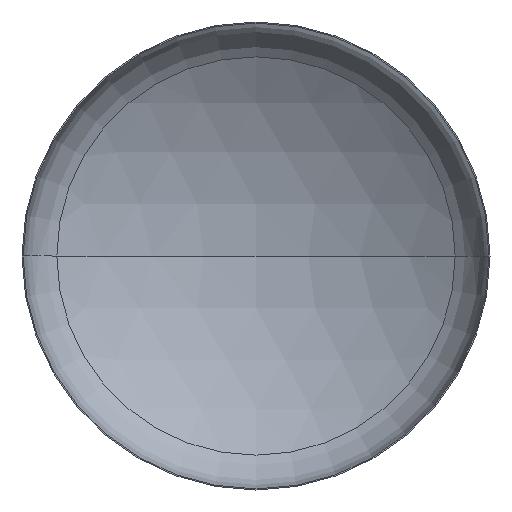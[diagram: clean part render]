
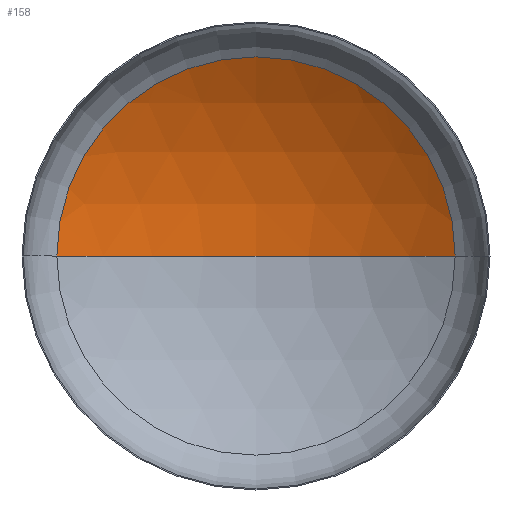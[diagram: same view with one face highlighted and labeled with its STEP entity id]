
A CAD part, front view. The second image highlights one B-rep face of the part: STEP entity #158.
In plain terms, the highlighted spherical face has radius 3040 mm.
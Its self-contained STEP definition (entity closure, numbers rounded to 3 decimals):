
#9 = EDGE_LOOP ( 'NONE', ( #122, #164, #116 ) ) ;
#14 = AXIS2_PLACEMENT_3D ( 'NONE', #242, #407, #195 ) ;
#26 = AXIS2_PLACEMENT_3D ( 'NONE', #173, #347, #350 ) ;
#56 = AXIS2_PLACEMENT_3D ( 'NONE', #206, #209, #187 ) ;
#109 = VERTEX_POINT ( 'NONE', #191 ) ;
#111 = VERTEX_POINT ( 'NONE', #289 ) ;
#116 = ORIENTED_EDGE ( 'NONE', *, *, #339, .T. ) ;
#122 = ORIENTED_EDGE ( 'NONE', *, *, #385, .F. ) ;
#123 = VERTEX_POINT ( 'NONE', #219 ) ;
#158 = ADVANCED_FACE ( 'NONE', ( #274 ), #352, .F. ) ;
#164 = ORIENTED_EDGE ( 'NONE', *, *, #341, .T. ) ;
#172 = CIRCLE ( 'NONE', #234, 3040. ) ;
#173 = CARTESIAN_POINT ( 'NONE',  ( 0., 525.354, 0. ) ) ;
#187 = DIRECTION ( 'NONE',  ( -1., 0., 0. ) ) ;
#191 = CARTESIAN_POINT ( 'NONE',  ( -1617.206, 525.354, 0. ) ) ;
#195 = DIRECTION ( 'NONE',  ( -1., 0., 0. ) ) ;
#201 = DIRECTION ( 'NONE',  ( 0., 0., 1. ) ) ;
#206 = CARTESIAN_POINT ( 'NONE',  ( 0., -2048.795, 0. ) ) ;
#209 = DIRECTION ( 'NONE',  ( 0., 0., -1. ) ) ;
#219 = CARTESIAN_POINT ( 'NONE',  ( 1617.206, 525.354, 0. ) ) ;
#234 = AXIS2_PLACEMENT_3D ( 'NONE', #353, #201, #374 ) ;
#242 = CARTESIAN_POINT ( 'NONE',  ( 0., -2048.795, 0. ) ) ;
#274 = FACE_OUTER_BOUND ( 'NONE', #9, .T. ) ;
#289 = CARTESIAN_POINT ( 'NONE',  ( 0., 991.205, 0. ) ) ;
#325 = CIRCLE ( 'NONE', #26, 1617.206 ) ;
#339 = EDGE_CURVE ( 'NONE', #123, #109, #325, .T. ) ;
#341 = EDGE_CURVE ( 'NONE', #111, #123, #382, .T. ) ;
#347 = DIRECTION ( 'NONE',  ( 0., -1., 0. ) ) ;
#350 = DIRECTION ( 'NONE',  ( 1., 0., 0. ) ) ;
#352 = SPHERICAL_SURFACE ( 'NONE', #56, 3040. ) ;
#353 = CARTESIAN_POINT ( 'NONE',  ( 0., -2048.795, 0. ) ) ;
#374 = DIRECTION ( 'NONE',  ( 1., 0., 0. ) ) ;
#382 = CIRCLE ( 'NONE', #14, 3040. ) ;
#385 = EDGE_CURVE ( 'NONE', #111, #109, #172, .T. ) ;
#407 = DIRECTION ( 'NONE',  ( 0., 0., -1. ) ) ;
